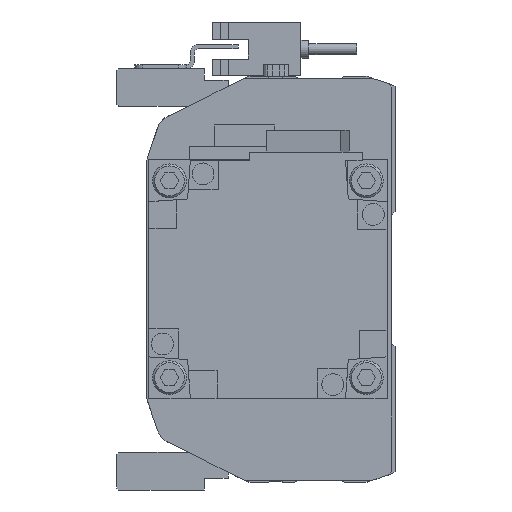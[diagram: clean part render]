
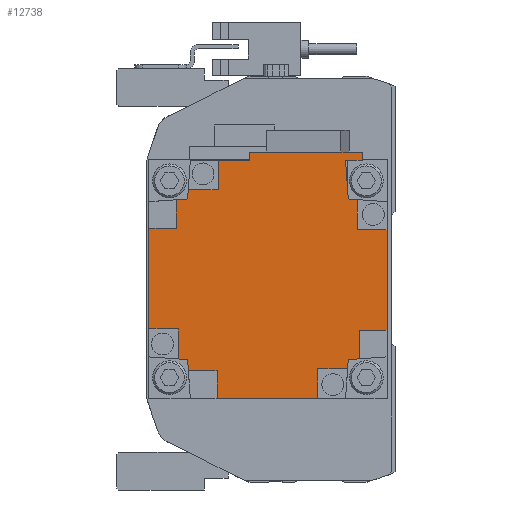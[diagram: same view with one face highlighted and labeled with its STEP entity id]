
A CAD part, left-side view. The second image highlights one B-rep face of the part: STEP entity #12738.
In plain terms, the highlighted planar face has unit normal (-1, 0, 0) as drawn and (0, 1, 0) by its records, which use the part's own axes.
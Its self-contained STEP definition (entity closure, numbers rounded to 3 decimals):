
#229=PLANE('',#13619);
#780=LINE('',#18928,#2043);
#797=LINE('',#18964,#2060);
#799=LINE('',#18968,#2062);
#800=LINE('',#18971,#2063);
#801=LINE('',#18973,#2064);
#802=LINE('',#18975,#2065);
#803=LINE('',#18977,#2066);
#804=LINE('',#18979,#2067);
#805=LINE('',#18981,#2068);
#806=LINE('',#18983,#2069);
#807=LINE('',#18985,#2070);
#808=LINE('',#18987,#2071);
#809=LINE('',#18989,#2072);
#810=LINE('',#18991,#2073);
#811=LINE('',#18993,#2074);
#812=LINE('',#18995,#2075);
#813=LINE('',#18997,#2076);
#814=LINE('',#18999,#2077);
#815=LINE('',#19001,#2078);
#816=LINE('',#19003,#2079);
#817=LINE('',#19005,#2080);
#818=LINE('',#19007,#2081);
#819=LINE('',#19009,#2082);
#820=LINE('',#19011,#2083);
#821=LINE('',#19013,#2084);
#822=LINE('',#19014,#2085);
#823=LINE('',#19015,#2086);
#824=LINE('',#19017,#2087);
#825=LINE('',#19019,#2088);
#826=LINE('',#19021,#2089);
#2043=VECTOR('',#15104,1000.);
#2060=VECTOR('',#15123,1000.);
#2062=VECTOR('',#15127,1000.);
#2063=VECTOR('',#15128,1000.);
#2064=VECTOR('',#15129,1000.);
#2065=VECTOR('',#15130,1000.);
#2066=VECTOR('',#15131,1000.);
#2067=VECTOR('',#15132,1000.);
#2068=VECTOR('',#15133,1000.);
#2069=VECTOR('',#15134,1000.);
#2070=VECTOR('',#15135,1000.);
#2071=VECTOR('',#15136,1000.);
#2072=VECTOR('',#15137,1000.);
#2073=VECTOR('',#15138,1000.);
#2074=VECTOR('',#15139,1000.);
#2075=VECTOR('',#15140,1000.);
#2076=VECTOR('',#15141,1000.);
#2077=VECTOR('',#15142,1000.);
#2078=VECTOR('',#15143,1000.);
#2079=VECTOR('',#15144,1000.);
#2080=VECTOR('',#15145,1000.);
#2081=VECTOR('',#15146,1000.);
#2082=VECTOR('',#15147,1000.);
#2083=VECTOR('',#15148,1000.);
#2084=VECTOR('',#15149,1000.);
#2085=VECTOR('',#15150,1000.);
#2086=VECTOR('',#15151,1000.);
#2087=VECTOR('',#15152,1000.);
#2088=VECTOR('',#15153,1000.);
#2089=VECTOR('',#15154,1000.);
#3507=ORIENTED_EDGE('',*,*,#7047,.T.);
#3508=ORIENTED_EDGE('',*,*,#7048,.T.);
#3509=ORIENTED_EDGE('',*,*,#7049,.T.);
#3510=ORIENTED_EDGE('',*,*,#7050,.T.);
#3511=ORIENTED_EDGE('',*,*,#7051,.T.);
#3512=ORIENTED_EDGE('',*,*,#7052,.F.);
#3513=ORIENTED_EDGE('',*,*,#7053,.F.);
#3514=ORIENTED_EDGE('',*,*,#7054,.T.);
#3515=ORIENTED_EDGE('',*,*,#7055,.T.);
#3516=ORIENTED_EDGE('',*,*,#7056,.T.);
#3517=ORIENTED_EDGE('',*,*,#7057,.T.);
#3518=ORIENTED_EDGE('',*,*,#7058,.T.);
#3519=ORIENTED_EDGE('',*,*,#7059,.F.);
#3520=ORIENTED_EDGE('',*,*,#7060,.F.);
#3521=ORIENTED_EDGE('',*,*,#7061,.T.);
#3522=ORIENTED_EDGE('',*,*,#7062,.T.);
#3523=ORIENTED_EDGE('',*,*,#7063,.T.);
#3524=ORIENTED_EDGE('',*,*,#7064,.T.);
#3525=ORIENTED_EDGE('',*,*,#7065,.T.);
#3526=ORIENTED_EDGE('',*,*,#7066,.F.);
#3527=ORIENTED_EDGE('',*,*,#7067,.F.);
#3528=ORIENTED_EDGE('',*,*,#7068,.T.);
#3529=ORIENTED_EDGE('',*,*,#7069,.F.);
#3530=ORIENTED_EDGE('',*,*,#7028,.F.);
#3531=ORIENTED_EDGE('',*,*,#7070,.T.);
#3532=ORIENTED_EDGE('',*,*,#7045,.T.);
#3533=ORIENTED_EDGE('',*,*,#7071,.T.);
#3534=ORIENTED_EDGE('',*,*,#7072,.T.);
#3535=ORIENTED_EDGE('',*,*,#7073,.F.);
#3536=ORIENTED_EDGE('',*,*,#7074,.F.);
#7028=EDGE_CURVE('',#8825,#8826,#780,.T.);
#7045=EDGE_CURVE('',#8843,#8842,#797,.T.);
#7047=EDGE_CURVE('',#8844,#8845,#799,.T.);
#7048=EDGE_CURVE('',#8845,#8846,#800,.T.);
#7049=EDGE_CURVE('',#8846,#8847,#801,.T.);
#7050=EDGE_CURVE('',#8847,#8848,#802,.T.);
#7051=EDGE_CURVE('',#8848,#8849,#803,.T.);
#7052=EDGE_CURVE('',#8850,#8849,#804,.T.);
#7053=EDGE_CURVE('',#8851,#8850,#805,.T.);
#7054=EDGE_CURVE('',#8851,#8852,#806,.T.);
#7055=EDGE_CURVE('',#8852,#8853,#807,.T.);
#7056=EDGE_CURVE('',#8853,#8854,#808,.T.);
#7057=EDGE_CURVE('',#8854,#8855,#809,.T.);
#7058=EDGE_CURVE('',#8855,#8856,#810,.T.);
#7059=EDGE_CURVE('',#8857,#8856,#811,.T.);
#7060=EDGE_CURVE('',#8858,#8857,#812,.T.);
#7061=EDGE_CURVE('',#8858,#8859,#813,.T.);
#7062=EDGE_CURVE('',#8859,#8860,#814,.T.);
#7063=EDGE_CURVE('',#8860,#8861,#815,.T.);
#7064=EDGE_CURVE('',#8861,#8862,#816,.T.);
#7065=EDGE_CURVE('',#8862,#8863,#817,.T.);
#7066=EDGE_CURVE('',#8864,#8863,#818,.T.);
#7067=EDGE_CURVE('',#8865,#8864,#819,.T.);
#7068=EDGE_CURVE('',#8865,#8866,#820,.T.);
#7069=EDGE_CURVE('',#8826,#8866,#821,.T.);
#7070=EDGE_CURVE('',#8825,#8843,#822,.T.);
#7071=EDGE_CURVE('',#8842,#8867,#823,.T.);
#7072=EDGE_CURVE('',#8867,#8868,#824,.T.);
#7073=EDGE_CURVE('',#8869,#8868,#825,.T.);
#7074=EDGE_CURVE('',#8844,#8869,#826,.T.);
#8825=VERTEX_POINT('',#18929);
#8826=VERTEX_POINT('',#18930);
#8842=VERTEX_POINT('',#18963);
#8843=VERTEX_POINT('',#18965);
#8844=VERTEX_POINT('',#18969);
#8845=VERTEX_POINT('',#18970);
#8846=VERTEX_POINT('',#18972);
#8847=VERTEX_POINT('',#18974);
#8848=VERTEX_POINT('',#18976);
#8849=VERTEX_POINT('',#18978);
#8850=VERTEX_POINT('',#18980);
#8851=VERTEX_POINT('',#18982);
#8852=VERTEX_POINT('',#18984);
#8853=VERTEX_POINT('',#18986);
#8854=VERTEX_POINT('',#18988);
#8855=VERTEX_POINT('',#18990);
#8856=VERTEX_POINT('',#18992);
#8857=VERTEX_POINT('',#18994);
#8858=VERTEX_POINT('',#18996);
#8859=VERTEX_POINT('',#18998);
#8860=VERTEX_POINT('',#19000);
#8861=VERTEX_POINT('',#19002);
#8862=VERTEX_POINT('',#19004);
#8863=VERTEX_POINT('',#19006);
#8864=VERTEX_POINT('',#19008);
#8865=VERTEX_POINT('',#19010);
#8866=VERTEX_POINT('',#19012);
#8867=VERTEX_POINT('',#19016);
#8868=VERTEX_POINT('',#19018);
#8869=VERTEX_POINT('',#19020);
#10544=EDGE_LOOP('',(#3507,#3508,#3509,#3510,#3511,#3512,#3513,#3514,#3515,
#3516,#3517,#3518,#3519,#3520,#3521,#3522,#3523,#3524,#3525,#3526,#3527,
#3528,#3529,#3530,#3531,#3532,#3533,#3534,#3535,#3536));
#11533=FACE_BOUND('',#10544,.T.);
#12738=ADVANCED_FACE('',(#11533),#229,.T.);
#13619=AXIS2_PLACEMENT_3D('',#18967,#15125,#15126);
#15104=DIRECTION('',(0.,0.,1.));
#15123=DIRECTION('',(0.,0.,-1.));
#15125=DIRECTION('',(0.,1.,0.));
#15126=DIRECTION('',(0.,0.,1.));
#15127=DIRECTION('',(-1.,0.,0.));
#15128=DIRECTION('',(0.,0.,-1.));
#15129=DIRECTION('',(-1.,0.,0.));
#15130=DIRECTION('',(0.,0.,1.));
#15131=DIRECTION('',(-1.,0.,0.));
#15132=DIRECTION('',(0.07,0.,-0.998));
#15133=DIRECTION('',(0.998,0.,-0.07));
#15134=DIRECTION('',(0.,0.,1.));
#15135=DIRECTION('',(-1.,0.,0.));
#15136=DIRECTION('',(0.,0.,1.));
#15137=DIRECTION('',(1.,0.,0.));
#15138=DIRECTION('',(0.,0.,1.));
#15139=DIRECTION('',(-0.998,0.,-0.07));
#15140=DIRECTION('',(-0.07,0.,-0.998));
#15141=DIRECTION('',(1.,0.,0.));
#15142=DIRECTION('',(0.,0.,1.));
#15143=DIRECTION('',(1.,0.,0.));
#15144=DIRECTION('',(0.,0.,-1.));
#15145=DIRECTION('',(1.,0.,0.));
#15146=DIRECTION('',(-0.07,0.,0.998));
#15147=DIRECTION('',(-0.998,0.,0.07));
#15148=DIRECTION('',(0.,0.,1.));
#15149=DIRECTION('',(-1.,0.,0.));
#15150=DIRECTION('',(-1.,0.,0.));
#15151=DIRECTION('',(-1.,0.,0.));
#15152=DIRECTION('',(0.,0.,-1.));
#15153=DIRECTION('',(0.998,0.,0.07));
#15154=DIRECTION('',(0.07,0.,0.998));
#18928=CARTESIAN_POINT('',(32.,130.7,-4.7));
#18929=CARTESIAN_POINT('',(32.,130.7,-4.7));
#18930=CARTESIAN_POINT('',(32.,130.7,23.7));
#18963=CARTESIAN_POINT('',(29.95,130.7,-12.5));
#18964=CARTESIAN_POINT('',(29.95,130.7,29.95));
#18965=CARTESIAN_POINT('',(29.95,130.7,-4.7));
#18967=CARTESIAN_POINT('',(0.,130.7,0.));
#18968=CARTESIAN_POINT('',(0.,130.7,-23.));
#18969=CARTESIAN_POINT('',(20.004,130.7,-23.));
#18970=CARTESIAN_POINT('',(12.8,130.7,-23.));
#18971=CARTESIAN_POINT('',(12.8,130.7,0.));
#18972=CARTESIAN_POINT('',(12.8,130.7,-29.95));
#18973=CARTESIAN_POINT('',(29.95,130.7,-29.95));
#18974=CARTESIAN_POINT('',(-12.5,130.7,-29.95));
#18975=CARTESIAN_POINT('',(-12.5,130.7,0.));
#18976=CARTESIAN_POINT('',(-12.5,130.7,-22.5));
#18977=CARTESIAN_POINT('',(0.,130.7,-22.5));
#18978=CARTESIAN_POINT('',(-20.039,130.7,-22.5));
#18979=CARTESIAN_POINT('',(-21.507,130.7,-1.504));
#18980=CARTESIAN_POINT('',(-20.2,130.7,-20.2));
#18981=CARTESIAN_POINT('',(-1.504,130.7,-21.507));
#18982=CARTESIAN_POINT('',(-23.,130.7,-20.004));
#18983=CARTESIAN_POINT('',(-23.,130.7,0.));
#18984=CARTESIAN_POINT('',(-23.,130.7,-12.8));
#18985=CARTESIAN_POINT('',(0.,130.7,-12.8));
#18986=CARTESIAN_POINT('',(-29.95,130.7,-12.8));
#18987=CARTESIAN_POINT('',(-29.95,130.7,-29.95));
#18988=CARTESIAN_POINT('',(-29.95,130.7,12.5));
#18989=CARTESIAN_POINT('',(0.,130.7,12.5));
#18990=CARTESIAN_POINT('',(-22.5,130.7,12.5));
#18991=CARTESIAN_POINT('',(-22.5,130.7,0.));
#18992=CARTESIAN_POINT('',(-22.5,130.7,20.039));
#18993=CARTESIAN_POINT('',(-1.504,130.7,21.507));
#18994=CARTESIAN_POINT('',(-20.2,130.7,20.2));
#18995=CARTESIAN_POINT('',(-21.507,130.7,1.504));
#18996=CARTESIAN_POINT('',(-20.004,130.7,23.));
#18997=CARTESIAN_POINT('',(0.,130.7,23.));
#18998=CARTESIAN_POINT('',(-12.8,130.7,23.));
#18999=CARTESIAN_POINT('',(-12.8,130.7,0.));
#19000=CARTESIAN_POINT('',(-12.8,130.7,29.95));
#19001=CARTESIAN_POINT('',(-29.95,130.7,29.95));
#19002=CARTESIAN_POINT('',(12.5,130.7,29.95));
#19003=CARTESIAN_POINT('',(12.5,130.7,0.));
#19004=CARTESIAN_POINT('',(12.5,130.7,22.5));
#19005=CARTESIAN_POINT('',(0.,130.7,22.5));
#19006=CARTESIAN_POINT('',(20.039,130.7,22.5));
#19007=CARTESIAN_POINT('',(21.507,130.7,1.504));
#19008=CARTESIAN_POINT('',(20.2,130.7,20.2));
#19009=CARTESIAN_POINT('',(1.504,130.7,21.507));
#19010=CARTESIAN_POINT('',(29.95,130.7,19.518));
#19011=CARTESIAN_POINT('',(29.95,130.7,-4.7));
#19012=CARTESIAN_POINT('',(29.95,130.7,23.7));
#19013=CARTESIAN_POINT('',(32.,130.7,23.7));
#19014=CARTESIAN_POINT('',(32.,130.7,-4.7));
#19015=CARTESIAN_POINT('',(0.,130.7,-12.5));
#19016=CARTESIAN_POINT('',(22.5,130.7,-12.5));
#19017=CARTESIAN_POINT('',(22.5,130.7,0.));
#19018=CARTESIAN_POINT('',(22.5,130.7,-20.039));
#19019=CARTESIAN_POINT('',(1.504,130.7,-21.507));
#19020=CARTESIAN_POINT('',(20.2,130.7,-20.2));
#19021=CARTESIAN_POINT('',(21.507,130.7,-1.504));
